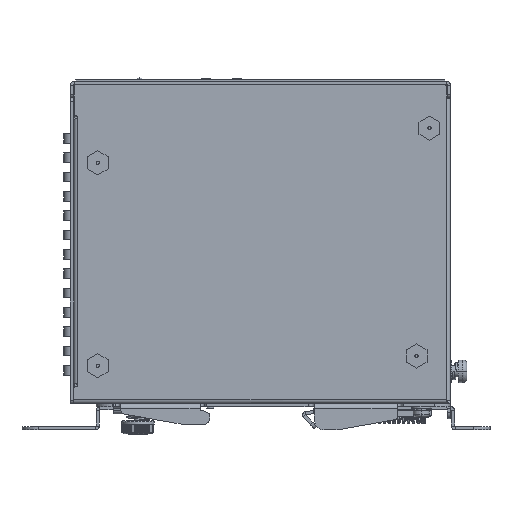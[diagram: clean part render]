
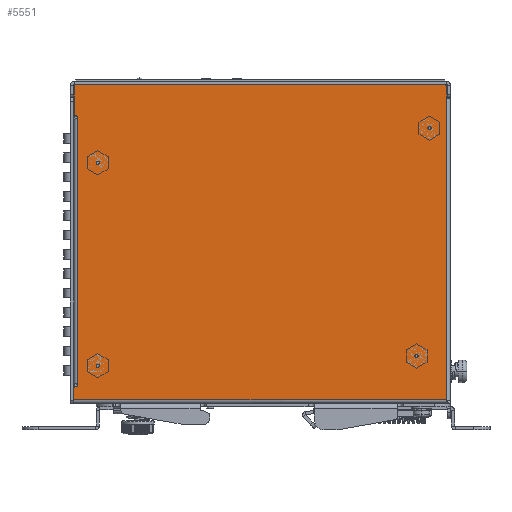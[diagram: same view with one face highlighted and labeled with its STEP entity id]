
A CAD part, left-side view. The second image highlights one B-rep face of the part: STEP entity #5551.
In plain terms, the highlighted planar face has unit normal (-1, 0, 0).
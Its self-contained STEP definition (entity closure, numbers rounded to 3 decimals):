
#108=CARTESIAN_POINT('',(-1.,50.5,-87.25));
#109=DIRECTION('',(-1.,0.,0.));
#110=DIRECTION('',(0.,1.,0.));
#111=AXIS2_PLACEMENT_3D('',#108,#109,#110);
#113=CARTESIAN_POINT('',(-1.,50.5,-87.25));
#114=DIRECTION('',(-1.,0.,0.));
#115=DIRECTION('',(0.,-1.,0.));
#116=AXIS2_PLACEMENT_3D('',#113,#114,#115);
#118=CARTESIAN_POINT('',(-1.,-48.5,-84.25));
#119=DIRECTION('',(-1.,0.,0.));
#120=DIRECTION('',(0.,1.,0.));
#121=AXIS2_PLACEMENT_3D('',#118,#119,#120);
#123=CARTESIAN_POINT('',(-1.,-48.5,-84.25));
#124=DIRECTION('',(-1.,0.,0.));
#125=DIRECTION('',(0.,-1.,0.));
#126=AXIS2_PLACEMENT_3D('',#123,#124,#125);
#128=CARTESIAN_POINT('',(-1.,50.5,-24.25));
#129=DIRECTION('',(-1.,0.,0.));
#130=DIRECTION('',(0.,1.,0.));
#131=AXIS2_PLACEMENT_3D('',#128,#129,#130);
#133=CARTESIAN_POINT('',(-1.,50.5,-24.25));
#134=DIRECTION('',(-1.,0.,0.));
#135=DIRECTION('',(0.,-1.,0.));
#136=AXIS2_PLACEMENT_3D('',#133,#134,#135);
#138=CARTESIAN_POINT('',(-1.,-52.5,-13.5));
#139=DIRECTION('',(-1.,0.,0.));
#140=DIRECTION('',(0.,1.,0.));
#141=AXIS2_PLACEMENT_3D('',#138,#139,#140);
#143=CARTESIAN_POINT('',(-1.,-52.5,-13.5));
#144=DIRECTION('',(-1.,0.,0.));
#145=DIRECTION('',(0.,-1.,0.));
#146=AXIS2_PLACEMENT_3D('',#143,#144,#145);
#148=CARTESIAN_POINT('',(-1.,57.3,-9.2));
#149=DIRECTION('',(-1.,0.,0.));
#150=DIRECTION('',(0.,1.,0.));
#151=AXIS2_PLACEMENT_3D('',#148,#149,#150);
#153=DIRECTION('',(0.,0.,1.));
#154=VECTOR('',#153,5.);
#155=CARTESIAN_POINT('',(-1.,57.8,-9.2));
#156=LINE('',#155,#154);
#157=DIRECTION('',(0.,0.,1.));
#158=VECTOR('',#157,3.7);
#159=CARTESIAN_POINT('',(-1.,57.8,-4.2));
#160=LINE('',#159,#158);
#161=CARTESIAN_POINT('',(-1.,57.3,-0.5));
#162=DIRECTION('',(-1.,0.,0.));
#163=DIRECTION('',(0.,0.,1.));
#164=AXIS2_PLACEMENT_3D('',#161,#162,#163);
#166=DIRECTION('',(0.,-1.,0.));
#167=VECTOR('',#166,114.6);
#168=CARTESIAN_POINT('',(-1.,57.3,0.));
#169=LINE('',#168,#167);
#170=CARTESIAN_POINT('',(-1.,-57.3,-0.5));
#171=DIRECTION('',(-1.,0.,0.));
#172=DIRECTION('',(0.,-1.,0.));
#173=AXIS2_PLACEMENT_3D('',#170,#171,#172);
#175=DIRECTION('',(0.,0.,-1.));
#176=VECTOR('',#175,3.7);
#177=CARTESIAN_POINT('',(-1.,-57.8,-0.5));
#178=LINE('',#177,#176);
#179=CARTESIAN_POINT('',(-1.,57.5,-94.3));
#180=DIRECTION('',(-1.,0.,0.));
#181=DIRECTION('',(0.,0.,1.));
#182=AXIS2_PLACEMENT_3D('',#179,#180,#181);
#184=DIRECTION('',(0.,-1.,0.));
#185=VECTOR('',#184,0.2);
#186=CARTESIAN_POINT('',(-1.,57.5,-93.8));
#187=LINE('',#186,#185);
#188=CARTESIAN_POINT('',(-1.,57.3,-93.3));
#189=DIRECTION('',(-1.,0.,0.));
#190=DIRECTION('',(0.,0.,-1.));
#191=AXIS2_PLACEMENT_3D('',#188,#189,#190);
#193=DIRECTION('',(0.,0.,-1.));
#194=VECTOR('',#193,0.5);
#195=CARTESIAN_POINT('',(-1.,56.8,-92.8));
#196=LINE('',#195,#194);
#197=DIRECTION('',(0.,0.,-1.));
#198=VECTOR('',#197,0.5);
#199=CARTESIAN_POINT('',(-1.,56.8,-10.2));
#200=LINE('',#199,#198);
#201=CARTESIAN_POINT('',(-1.,57.3,-10.2));
#202=DIRECTION('',(1.,0.,0.));
#203=DIRECTION('',(0.,0.,1.));
#204=AXIS2_PLACEMENT_3D('',#201,#202,#203);
#271=DIRECTION('',(0.,0.,-1.));
#272=VECTOR('',#271,93.6);
#273=CARTESIAN_POINT('',(-1.,-57.8,-4.2));
#274=LINE('',#273,#272);
#3140=DIRECTION('',(0.,1.,0.));
#3141=VECTOR('',#3140,115.8);
#3142=CARTESIAN_POINT('',(-1.,-57.8,-97.8));
#3143=LINE('',#3142,#3141);
#3156=DIRECTION('',(0.,0.,-1.));
#3157=VECTOR('',#3156,3.5);
#3158=CARTESIAN_POINT('',(-1.,58.,-94.3));
#3159=LINE('',#3158,#3157);
#3474=DIRECTION('',(0.,0.,1.));
#3475=VECTOR('',#3474,82.1);
#3476=CARTESIAN_POINT('',(-1.,56.8,-92.8));
#3477=LINE('',#3476,#3475);
#4218=CARTESIAN_POINT('',(-1.,58.,-97.8));
#4220=VERTEX_POINT('',#4218);
#4221=CARTESIAN_POINT('',(-1.,-57.8,-97.8));
#4222=VERTEX_POINT('',#4221);
#4235=CARTESIAN_POINT('',(-1.,-57.8,-4.2));
#4236=VERTEX_POINT('',#4235);
#4265=CARTESIAN_POINT('',(-1.,57.3,0.));
#4267=VERTEX_POINT('',#4265);
#4273=CARTESIAN_POINT('',(-1.,-57.8,-0.5));
#4274=VERTEX_POINT('',#4273);
#4275=CARTESIAN_POINT('',(-1.,-57.3,0.));
#4276=VERTEX_POINT('',#4275);
#5217=CARTESIAN_POINT('',(-1.,-52.,-13.5));
#5218=CARTESIAN_POINT('',(-1.,-53.,-13.5));
#5219=VERTEX_POINT('',#5217);
#5220=VERTEX_POINT('',#5218);
#5221=CARTESIAN_POINT('',(-1.,51.,-24.25));
#5222=CARTESIAN_POINT('',(-1.,50.,-24.25));
#5223=VERTEX_POINT('',#5221);
#5224=VERTEX_POINT('',#5222);
#5225=CARTESIAN_POINT('',(-1.,-48.,-84.25));
#5226=CARTESIAN_POINT('',(-1.,-49.,-84.25));
#5227=VERTEX_POINT('',#5225);
#5228=VERTEX_POINT('',#5226);
#5229=CARTESIAN_POINT('',(-1.,51.,-87.25));
#5230=CARTESIAN_POINT('',(-1.,50.,-87.25));
#5231=VERTEX_POINT('',#5229);
#5232=VERTEX_POINT('',#5230);
#5233=CARTESIAN_POINT('',(-1.,56.8,-10.2));
#5235=VERTEX_POINT('',#5233);
#5239=CARTESIAN_POINT('',(-1.,56.8,-10.7));
#5240=VERTEX_POINT('',#5239);
#5244=CARTESIAN_POINT('',(-1.,57.3,-93.8));
#5246=VERTEX_POINT('',#5244);
#5247=CARTESIAN_POINT('',(-1.,56.8,-92.8));
#5248=VERTEX_POINT('',#5247);
#5253=CARTESIAN_POINT('',(-1.,56.8,-93.3));
#5254=VERTEX_POINT('',#5253);
#5261=CARTESIAN_POINT('',(-1.,57.8,-4.2));
#5262=CARTESIAN_POINT('',(-1.,57.8,-0.5));
#5263=VERTEX_POINT('',#5261);
#5264=VERTEX_POINT('',#5262);
#5269=CARTESIAN_POINT('',(-1.,57.8,-9.2));
#5270=VERTEX_POINT('',#5269);
#5271=CARTESIAN_POINT('',(-1.,57.3,-9.7));
#5272=VERTEX_POINT('',#5271);
#5277=CARTESIAN_POINT('',(-1.,57.5,-93.8));
#5278=VERTEX_POINT('',#5277);
#5279=CARTESIAN_POINT('',(-1.,58.,-94.3));
#5280=VERTEX_POINT('',#5279);
#5488=CARTESIAN_POINT('',(-1.,0.,0.));
#5489=DIRECTION('',(1.,0.,0.));
#5490=DIRECTION('',(0.,-1.,0.));
#5491=AXIS2_PLACEMENT_3D('',#5488,#5489,#5490);
#5492=PLANE('',#5491);
#5494=ORIENTED_EDGE('',*,*,#5493,.F.);
#5496=ORIENTED_EDGE('',*,*,#5495,.T.);
#5498=ORIENTED_EDGE('',*,*,#5497,.T.);
#5500=ORIENTED_EDGE('',*,*,#5499,.F.);
#5502=ORIENTED_EDGE('',*,*,#5501,.T.);
#5504=ORIENTED_EDGE('',*,*,#5503,.F.);
#5506=ORIENTED_EDGE('',*,*,#5505,.T.);
#5508=ORIENTED_EDGE('',*,*,#5507,.T.);
#5510=ORIENTED_EDGE('',*,*,#5509,.T.);
#5512=ORIENTED_EDGE('',*,*,#5511,.F.);
#5514=ORIENTED_EDGE('',*,*,#5513,.F.);
#5516=ORIENTED_EDGE('',*,*,#5515,.T.);
#5518=ORIENTED_EDGE('',*,*,#5517,.T.);
#5520=ORIENTED_EDGE('',*,*,#5519,.F.);
#5522=ORIENTED_EDGE('',*,*,#5521,.T.);
#5524=ORIENTED_EDGE('',*,*,#5523,.F.);
#5526=ORIENTED_EDGE('',*,*,#5525,.F.);
#5527=EDGE_LOOP('',(#5494,#5496,#5498,#5500,#5502,#5504,#5506,#5508,#5510,#5512,
#5514,#5516,#5518,#5520,#5522,#5524,#5526));
#5528=FACE_OUTER_BOUND('',#5527,.F.);
#5530=ORIENTED_EDGE('',*,*,#5529,.T.);
#5532=ORIENTED_EDGE('',*,*,#5531,.T.);
#5533=EDGE_LOOP('',(#5530,#5532));
#5534=FACE_BOUND('',#5533,.F.);
#5536=ORIENTED_EDGE('',*,*,#5535,.T.);
#5538=ORIENTED_EDGE('',*,*,#5537,.T.);
#5539=EDGE_LOOP('',(#5536,#5538));
#5540=FACE_BOUND('',#5539,.F.);
#5541=ORIENTED_EDGE('',*,*,#5468,.T.);
#5542=ORIENTED_EDGE('',*,*,#5482,.T.);
#5543=EDGE_LOOP('',(#5541,#5542));
#5544=FACE_BOUND('',#5543,.F.);
#5546=ORIENTED_EDGE('',*,*,#5545,.T.);
#5548=ORIENTED_EDGE('',*,*,#5547,.T.);
#5549=EDGE_LOOP('',(#5546,#5548));
#5550=FACE_BOUND('',#5549,.F.);
#112=CIRCLE('',#111,0.5);
#117=CIRCLE('',#116,0.5);
#122=CIRCLE('',#121,0.5);
#127=CIRCLE('',#126,0.5);
#132=CIRCLE('',#131,0.5);
#137=CIRCLE('',#136,0.5);
#142=CIRCLE('',#141,0.5);
#147=CIRCLE('',#146,0.5);
#152=CIRCLE('',#151,0.5);
#165=CIRCLE('',#164,0.5);
#174=CIRCLE('',#173,0.5);
#183=CIRCLE('',#182,0.5);
#192=CIRCLE('',#191,0.5);
#205=CIRCLE('',#204,0.5);
#5468=EDGE_CURVE('',#5219,#5220,#142,.T.);
#5482=EDGE_CURVE('',#5220,#5219,#147,.T.);
#5493=EDGE_CURVE('',#5270,#5272,#152,.T.);
#5495=EDGE_CURVE('',#5270,#5263,#156,.T.);
#5497=EDGE_CURVE('',#5263,#5264,#160,.T.);
#5499=EDGE_CURVE('',#4267,#5264,#165,.T.);
#5501=EDGE_CURVE('',#4267,#4276,#169,.T.);
#5503=EDGE_CURVE('',#4274,#4276,#174,.T.);
#5505=EDGE_CURVE('',#4274,#4236,#178,.T.);
#5507=EDGE_CURVE('',#4236,#4222,#274,.T.);
#5509=EDGE_CURVE('',#4222,#4220,#3143,.T.);
#5511=EDGE_CURVE('',#5280,#4220,#3159,.T.);
#5513=EDGE_CURVE('',#5278,#5280,#183,.T.);
#5515=EDGE_CURVE('',#5278,#5246,#187,.T.);
#5517=EDGE_CURVE('',#5246,#5254,#192,.T.);
#5519=EDGE_CURVE('',#5248,#5254,#196,.T.);
#5521=EDGE_CURVE('',#5248,#5240,#3477,.T.);
#5523=EDGE_CURVE('',#5235,#5240,#200,.T.);
#5525=EDGE_CURVE('',#5272,#5235,#205,.T.);
#5529=EDGE_CURVE('',#5227,#5228,#122,.T.);
#5531=EDGE_CURVE('',#5228,#5227,#127,.T.);
#5535=EDGE_CURVE('',#5223,#5224,#132,.T.);
#5537=EDGE_CURVE('',#5224,#5223,#137,.T.);
#5545=EDGE_CURVE('',#5231,#5232,#112,.T.);
#5547=EDGE_CURVE('',#5232,#5231,#117,.T.);
#5551=ADVANCED_FACE('',(#5528,#5534,#5540,#5544,#5550),#5492,.F.);
